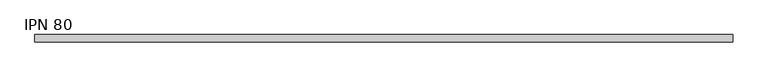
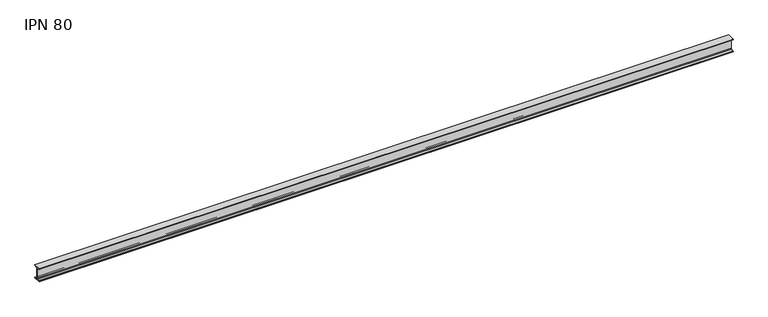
"""IFC4 building model written with IfcOpenShell, lengths in millimetres: beam geometry, IPN - Secciones en I con alas cónicas : IPN 80."""

from ifc_helpers import new_model, si_unit, point, frame, frame_2d, origin, place, context, project, spatial, polyline, circle_curve, trimmed, segment, composite_curve, outline, extrude, source, transform, mapped, element, save


def ipn_80_0cb7c897(model_context):
    return source(origin(), model_context, "Body", "SweptSolid", [
        extrude(outline(composite_curve([segment(polyline([(21.0, 40.0), (21.0, 37.5704306)]), True, "CONTINUOUS"), segment(trimmed(circle_curve(frame_2d((18.7, 37.5704306)), 2.3), [point((21.0, 37.5704306))], [point((19.01889, 35.2926446))], False, "CARTESIAN"), True, "CONTINUOUS"), segment(polyline([(19.01889, 35.2926446), (5.3092734, 33.3732983)]), True, "CONTINUOUS"), segment(trimmed(circle_curve(frame_2d((5.85, 29.5109655)), 3.9), [point((5.3092734, 33.3732983))], [point((1.95, 29.5109655))], True, "CARTESIAN"), True, "CONTINUOUS"), segment(polyline([(1.95, 29.5109655), (1.95, -29.5109655)]), True, "CONTINUOUS"), segment(trimmed(circle_curve(frame_2d((5.85, -29.5109655)), 3.9), [point((1.95, -29.5109655))], [point((5.3092734, -33.3732983))], True, "CARTESIAN"), True, "CONTINUOUS"), segment(polyline([(5.3092734, -33.3732983), (19.01889, -35.2926446)]), True, "CONTINUOUS"), segment(trimmed(circle_curve(frame_2d((18.7, -37.5704306)), 2.3), [point((19.01889, -35.2926446))], [point((21.0, -37.5704306))], False, "CARTESIAN"), True, "CONTINUOUS"), segment(polyline([(21.0, -37.5704306), (21.0, -40.0), (-21.0, -40.0), (-21.0, -37.5704306)]), True, "CONTINUOUS"), segment(trimmed(circle_curve(frame_2d((-18.7, -37.5704306)), 2.3), [point((-21.0, -37.5704306))], [point((-19.01889, -35.2926446))], False, "CARTESIAN"), True, "CONTINUOUS"), segment(polyline([(-19.01889, -35.2926446), (-5.3092734, -33.3732983)]), True, "CONTINUOUS"), segment(trimmed(circle_curve(frame_2d((-5.85, -29.5109655)), 3.9), [point((-5.3092734, -33.3732983))], [point((-1.95, -29.5109655))], True, "CARTESIAN"), True, "CONTINUOUS"), segment(polyline([(-1.95, -29.5109655), (-1.95, 29.5109655)]), True, "CONTINUOUS"), segment(trimmed(circle_curve(frame_2d((-5.85, 29.5109655)), 3.9), [point((-1.95, 29.5109655))], [point((-5.3092734, 33.3732983))], True, "CARTESIAN"), True, "CONTINUOUS"), segment(polyline([(-5.3092734, 33.3732983), (-19.01889, 35.2926446)]), True, "CONTINUOUS"), segment(trimmed(circle_curve(frame_2d((-18.7, 37.5704306)), 2.3), [point((-19.01889, 35.2926446))], [point((-21.0, 37.5704306))], False, "CARTESIAN"), True, "CONTINUOUS"), segment(polyline([(-21.0, 37.5704306), (-21.0, 40.0), (21.0, 40.0)]), True, "CONTINUOUS")], self_intersect=False)), frame((-2037.0, 0.0, 0.0), z_axis=(1.0, 0.0, 0.0), x_axis=(0.0, 1.0, 0.0)), (0.0, 0.0, 1.0), 4051.8),
    ])


if __name__ == "__main__":
    model = new_model("IFC4")
    model_context = context("Model", 3, world=origin())
    ifc_project = project(units=[si_unit("LENGTHUNIT", "METRE", prefix="MILLI")], contexts=[model_context])
    site = spatial("IfcSite", under=ifc_project)
    building = spatial("IfcBuilding", under=site)
    placement = place(None, origin())
    ipn_80_shape = ipn_80_0cb7c897(model_context)
    element("IfcBeam", 1, ObjectType="IPN - Secciones en I con alas cónicas : IPN 80", at=placement, inside=building, context=model_context, shape_type="MappedRepresentation", body=[
        mapped(ipn_80_shape, transform((0.0, 0.0, 0.0), x_axis=(1.0, 0.0, 0.0), y_axis=(0.0, 1.0, 0.0), z_axis=(0.0, 0.0, 1.0))),
    ])
    save(model, "model.ifc")
